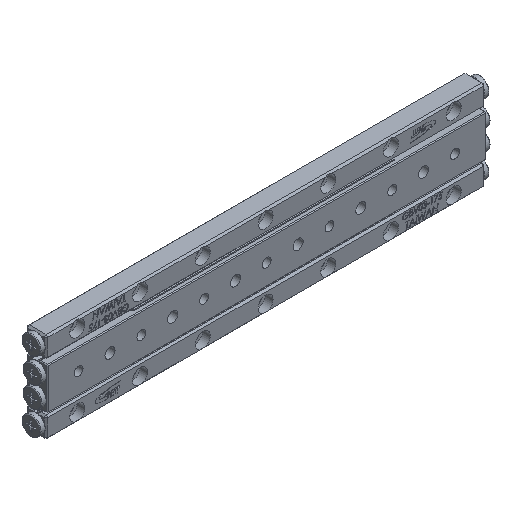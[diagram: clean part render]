
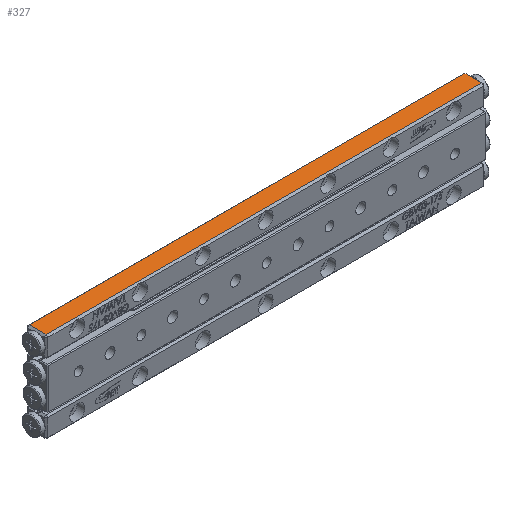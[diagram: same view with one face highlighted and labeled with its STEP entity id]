
A CAD part, isometric view. The second image highlights one B-rep face of the part: STEP entity #327.
In plain terms, the highlighted planar face has unit normal (0, 0, 1) as drawn and (0, 0, -1) by its records, which use the part's own axes.
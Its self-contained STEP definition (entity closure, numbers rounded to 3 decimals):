
#225 = EDGE_CURVE ( 'NONE', #10596, #14599, #19125, .T. ) ;
#319 = DIRECTION ( 'NONE',  ( -1., 0., 0. ) ) ;
#327 = ADVANCED_FACE ( 'NONE', ( #5909 ), #13043, .F. ) ;
#2086 = ORIENTED_EDGE ( 'NONE', *, *, #13894, .T. ) ;
#3427 = EDGE_CURVE ( 'NONE', #28828, #10596, #9429, .T. ) ;
#5756 = LINE ( 'NONE', #15221, #16508 ) ;
#5909 = FACE_OUTER_BOUND ( 'NONE', #23442, .T. ) ;
#6741 = CARTESIAN_POINT ( 'NONE',  ( -86.8, 3.3, 0. ) ) ;
#6990 = DIRECTION ( 'NONE',  ( 1., 0., 0. ) ) ;
#7472 = DIRECTION ( 'NONE',  ( 0., 1., 0. ) ) ;
#7819 = EDGE_CURVE ( 'NONE', #24354, #28828, #22999, .T. ) ;
#7839 = VECTOR ( 'NONE', #6990, 1000. ) ;
#8814 = CARTESIAN_POINT ( 'NONE',  ( 86.8, 3.3, 0. ) ) ;
#9429 = LINE ( 'NONE', #28833, #29544 ) ;
#10596 = VERTEX_POINT ( 'NONE', #16230 ) ;
#12224 = CARTESIAN_POINT ( 'NONE',  ( -86.8, -3.3, 0. ) ) ;
#12808 = ORIENTED_EDGE ( 'NONE', *, *, #225, .T. ) ;
#13043 = PLANE ( 'NONE',  #27936 ) ;
#13894 = EDGE_CURVE ( 'NONE', #14599, #24354, #5756, .T. ) ;
#14366 = DIRECTION ( 'NONE',  ( 0., -1., 0. ) ) ;
#14437 = CARTESIAN_POINT ( 'NONE',  ( 87.5, -3.3, 0. ) ) ;
#14599 = VERTEX_POINT ( 'NONE', #12224 ) ;
#15221 = CARTESIAN_POINT ( 'NONE',  ( -86.8, 4., 0. ) ) ;
#16230 = CARTESIAN_POINT ( 'NONE',  ( 86.8, -3.3, 0. ) ) ;
#16457 = CARTESIAN_POINT ( 'NONE',  ( 87.5, 3.3, 0. ) ) ;
#16508 = VECTOR ( 'NONE', #7472, 1000. ) ;
#17391 = ORIENTED_EDGE ( 'NONE', *, *, #7819, .T. ) ;
#17863 = CARTESIAN_POINT ( 'NONE',  ( 87.5, 4., 0. ) ) ;
#19125 = LINE ( 'NONE', #14437, #23968 ) ;
#22999 = LINE ( 'NONE', #16457, #7839 ) ;
#23442 = EDGE_LOOP ( 'NONE', ( #12808, #2086, #17391, #29707 ) ) ;
#23968 = VECTOR ( 'NONE', #319, 1000. ) ;
#24354 = VERTEX_POINT ( 'NONE', #6741 ) ;
#25174 = DIRECTION ( 'NONE',  ( 1., 0., 0. ) ) ;
#26889 = DIRECTION ( 'NONE',  ( 0., 0., 1. ) ) ;
#27936 = AXIS2_PLACEMENT_3D ( 'NONE', #17863, #26889, #25174 ) ;
#28828 = VERTEX_POINT ( 'NONE', #8814 ) ;
#28833 = CARTESIAN_POINT ( 'NONE',  ( 86.8, -4., 0. ) ) ;
#29544 = VECTOR ( 'NONE', #14366, 1000. ) ;
#29707 = ORIENTED_EDGE ( 'NONE', *, *, #3427, .T. ) ;
